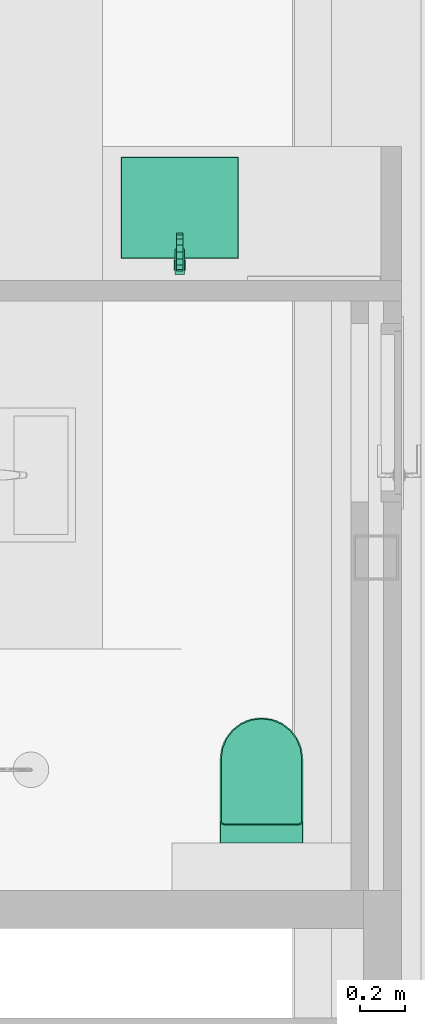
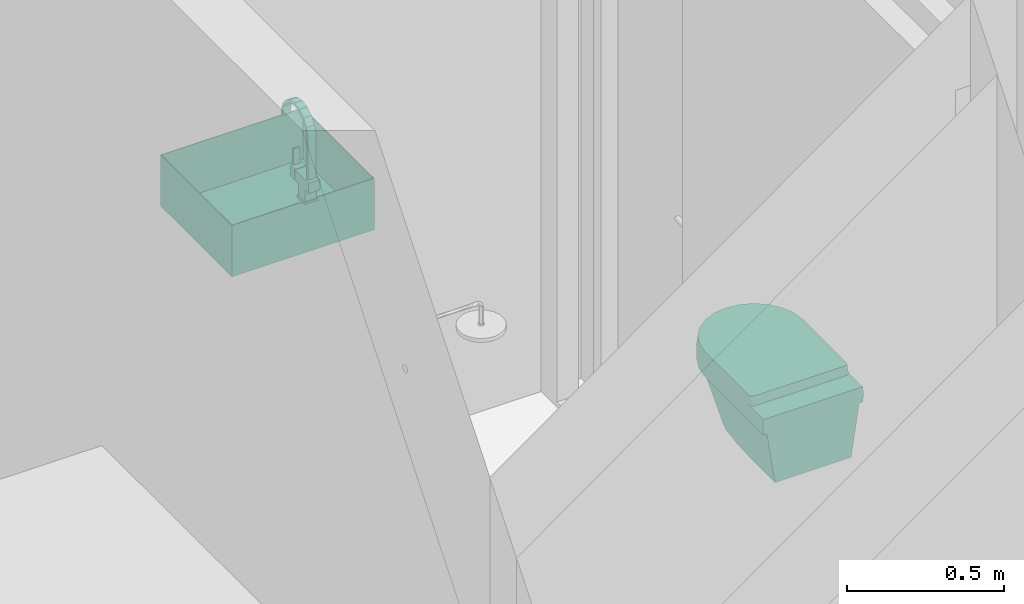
# One storey, part 56 of 125: 3 flow terminals.
"""IFC2X3 building model written with IfcOpenShell, lengths in millimetres."""

from ifc_helpers import new_model, entity, si_unit, converted_unit, direction, frame, origin, place, context, subcontext, project, spatial, faceted_brep, source, transform, mapped, material, type_object, type_shapes, element, save


model = new_model("IFC2X3")

# Units and contexts
model_context = context("Model", 3, precision=0.01, world=origin(), true_north=direction((6.123233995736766e-17, 1.0)))
plan_context = context("Plan", 3, precision=0.01, world=origin(), true_north=direction((6.123233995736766e-17, 1.0)))
body_context = subcontext(model_context, "Body", "Model", "MODEL_VIEW")
ifc_project = project(units=[si_unit("LENGTHUNIT", "METRE", prefix="MILLI"), converted_unit("PLANEANGLEUNIT", "DEGREE", entity("IfcPlaneAngleMeasure", 0.017453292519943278), si_unit("PLANEANGLEUNIT", "RADIAN"), dimensions=[0, 0, 0, 0, 0, 0, 0]), si_unit("AREAUNIT", "SQUARE_METRE")], contexts=[model_context, plan_context])

# Site, building, storey, space
site_placement = place(None, origin())
site = spatial("IfcSite", under=ifc_project, at=site_placement, Name="Default", CompositionType="ELEMENT")
building_placement = place(site_placement, origin())
building = spatial("IfcBuilding", under=site, at=building_placement, CompositionType="ELEMENT")
storey_placement = place(building_placement, frame((0.0, 0.0, 3125.0)))
storey = spatial("IfcBuildingStorey", under=building, at=storey_placement, Name="2K", CompositionType="ELEMENT", Elevation=3125.0)
space_1_placement = place(storey_placement, origin())
space_1 = spatial("IfcSpace", under=storey, at=space_1_placement, Name="2-3.4", CompositionType="ELEMENT", InteriorOrExteriorSpace="INTERNAL")

# Flow terminal
ifc_material = material(Name="<Unnamed>")
distribution_element_type_1 = type_object("IfcDistributionElementType", Name="HR_Plumbing-fixtures_Toilet_Generic_v3:Default", material=ifc_material)
shared_shape_1 = source(origin(), body_context, "Body", "Brep", [
    faceted_brep([(185.0, 375.0, -3940.0), (185.0, 100.0, -3940.0), (184.31851652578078, 94.82361909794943, -3940.0), (182.32050807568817, 90.0, -3940.0), (179.14213562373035, 85.85786437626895, -3940.0), (175.0, 82.67949192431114, -3940.0), (170.17638090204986, 80.68148347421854, -3940.0), (165.0, 80.0, -3940.0), (-165.0, 80.0, -3940.0), (-170.17638090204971, 80.68148347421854, -3940.0), (-175.0, 82.67949192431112, -3940.0), (-179.14213562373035, 85.85786437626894, -3940.0), (-182.32050807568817, 90.0, -3940.0), (-184.31851652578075, 94.82361909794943, -3940.0), (-185.0, 100.0, -3940.0), (-185.0, 375.0, -3940.0), (-178.6962778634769, 422.8815233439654, -3940.0), (-160.21469970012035, 467.49999999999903, -3940.0), (-130.81475451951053, 505.81475451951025, -3940.0), (-92.4999999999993, 535.21469970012, -3940.0), (-47.8815233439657, 553.6962778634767, -3940.0), (0.0, 560.0, -3940.0), (47.88152334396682, 553.6962778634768, -3940.0), (92.50000000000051, 535.2146997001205, -3940.0), (130.81475451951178, 505.8147545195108, -3940.0), (160.2146997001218, 467.4999999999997, -3940.0), (178.69627786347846, 422.8815233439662, -3940.0), (165.0, 85.0, -3905.0), (168.88228567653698, 85.51111260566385, -3905.0), (172.4999999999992, 87.00961894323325, -3905.0), (175.60660171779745, 89.39339828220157, -3905.0), (177.99038105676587, 92.49999999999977, -3905.0), (179.48888739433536, 96.11771432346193, -3905.0), (180.0, 100.0, -3905.0), (180.0, 375.0, -3905.0), (173.86664873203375, 421.5874281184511, -3905.0), (155.88457268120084, 465.0, -3905.0), (127.27922061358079, 502.27922061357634, -3905.0), (90.0, 530.884572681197, -3905.0), (46.58742811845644, 548.8666487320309, -3905.0), (0.0, 555.0, -3905.0), (-46.58742811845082, 548.8666487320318, -3905.0), (-90.0, 530.8845726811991, -3905.0), (-127.27922061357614, 502.2792206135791, -3905.0), (-155.88457268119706, 465.0, -3905.0), (-173.8666487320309, 421.58742811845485, -3905.0), (-180.0, 375.0, -3905.0), (-180.0, 100.0, -3905.0), (-179.4888873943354, 96.11771432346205, -3905.0), (-177.99038105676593, 92.49999999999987, -3905.0), (-175.6066017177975, 89.39339828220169, -3905.0), (-172.49999999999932, 87.00961894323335, -3905.0), (-168.88228567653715, 85.51111260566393, -3905.0), (-165.0, 85.0, -3905.0)], [[[0, 1, 2, 3, 4, 5, 6, 7, 8, 9, 10, 11, 12, 13, 14, 15, 16, 17, 18, 19, 20, 21, 22, 23, 24, 25, 26]], [[27, 28, 29, 30, 31, 32, 33, 34, 35, 36, 37, 38, 39, 40, 41, 42, 43, 44, 45, 46, 47, 48, 49, 50, 51, 52, 53]], [[13, 48, 47, 14]], [[49, 12, 11, 50]], [[48, 13, 12, 49]], [[52, 51, 10, 9]], [[53, 52, 9, 8]], [[10, 51, 50, 11]], [[7, 27, 53, 8]], [[6, 28, 27, 7]], [[29, 5, 4, 30]], [[28, 6, 5, 29]], [[32, 31, 3, 2]], [[33, 32, 2, 1]], [[3, 31, 30, 4]], [[0, 34, 33, 1]], [[34, 0, 26, 35]], [[35, 26, 25, 36]], [[38, 37, 24, 23]], [[24, 37, 36, 25]], [[39, 38, 23, 22]], [[39, 22, 21, 40]], [[20, 41, 40, 21]], [[45, 44, 17, 16]], [[43, 18, 17, 44]], [[45, 16, 15, 46]], [[19, 42, 41, 20]], [[19, 18, 43, 42]], [[47, 46, 15, 14]]]),
    faceted_brep([(158.04963619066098, 466.24999999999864, -4000.0), (176.28146329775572, 422.2344757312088, -4000.0), (182.5000000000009, 375.0, -4000.0), (182.5000000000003, 0.0, -4000.0), (-182.49999999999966, 0.0, -4000.0), (-182.49999999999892, 375.0, -4000.0), (-176.2814632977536, 422.23447573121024, -4000.0), (-158.04963619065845, 466.25, -4000.0), (-129.04698756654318, 504.0469875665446, -4000.0), (-91.2499999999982, 533.0496361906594, -4000.0), (-47.23447573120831, 551.281463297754, -4000.0), (0.0, 557.4999999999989, -4000.0), (47.23447573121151, 551.2814632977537, -4000.0), (91.25000000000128, 533.0496361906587, -4000.0), (129.04698756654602, 504.0469875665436, -4000.0), (-176.28146329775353, 422.23447573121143, -3940.0), (-182.49999999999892, 375.0, -3940.0), (-182.49999999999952, 0.0, -3940.0), (182.50000000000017, 0.0, -3940.0), (182.50000000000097, 375.0, -3940.0), (176.2814632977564, 422.23447573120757, -3940.0), (158.04963619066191, 466.24999999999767, -3940.0), (129.04698756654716, 504.04698756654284, -3940.0), (91.25000000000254, 533.0496361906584, -3940.0), (47.23447573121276, 551.2814632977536, -3940.0), (0.0, 557.4999999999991, -3940.0), (-47.23447573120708, 551.2814632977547, -3940.0), (-91.24999999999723, 533.0496361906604, -3940.0), (-129.04698756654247, 504.0469875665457, -3940.0), (-158.0496361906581, 466.25000000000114, -3940.0), (184.3739186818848, 0.0, -3985.051993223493), (185.0, 0.0, -3970.0), (184.37391868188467, 0.0, -3954.9480067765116), (-184.37391868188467, 0.0, -3954.9480067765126), (-185.0, 0.0, -3970.0), (-184.37391868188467, 0.0, -3985.051993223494), (185.0, 375.0, -3970.0), (184.37391868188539, 375.0, -3954.9480067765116), (184.37391868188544, 375.0, -3985.051993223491), (179.22193525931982, 420.2391964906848, -3962.467496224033), (146.12425609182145, 487.1250848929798, -3987.162723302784), (112.36452390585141, 521.4362980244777, -3982.347722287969), (-24.092382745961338, 557.9998161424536, -3957.652277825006), (-70.79643453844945, 545.9177137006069, -3969.999999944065), (165.88140661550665, 456.6493815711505, -3963.605381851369), (170.61476036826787, 445.67094705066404, -3980.89777177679), (146.7703673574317, 487.6208651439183, -3969.999999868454), (112.4934291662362, 521.6042920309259, -3961.29138681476), (70.79643457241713, 545.9177136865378, -3969.9999999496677), (-170.6147602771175, 445.67094700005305, -3980.8977734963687), (-146.12425609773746, 487.12508488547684, -3987.1627233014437), (70.4847752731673, 545.1653000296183, -3987.16272333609), (24.092382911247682, 557.9998161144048, -3982.3477222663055), (-146.77036734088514, 487.62086516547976, -3969.999999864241), (-165.88140640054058, 456.6493822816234, -3963.605385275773), (24.120021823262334, 558.2097557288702, -3961.2913867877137), (-24.120022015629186, 558.20975569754, -3978.7086133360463), (180.8695297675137, 411.23491834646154, -3983.9362692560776), (-112.36452329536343, 521.4362985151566, -3957.652277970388), (-112.4934298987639, 521.6042914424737, -3978.708613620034), (-70.48477528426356, 545.1653000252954, -3987.1627233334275), (-184.3739188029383, 375.0, -3954.948008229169), (-179.2219343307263, 420.239200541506, -3962.4674984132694), (-185.0, 375.0, -3970.0000029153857), (-184.3739185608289, 375.0, -3985.0519946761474), (-181.40133300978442, 410.0856400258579, -3979.2616608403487)], [[[0, 1, 2, 3, 4, 5, 6, 7, 8, 9, 10, 11, 12, 13, 14]], [[15, 16, 17, 18, 19, 20, 21, 22, 23, 24, 25, 26, 27, 28, 29]], [[4, 3, 30, 31, 32, 18, 17, 33, 34, 35]], [[32, 31, 36, 37]], [[32, 37, 19, 18]], [[30, 3, 2, 38]], [[30, 38, 36, 31]], [[37, 39, 20]], [[40, 14, 41]], [[20, 19, 37]], [[26, 42, 43]], [[44, 45, 46]], [[47, 41, 48]], [[48, 24, 23]], [[7, 49, 50]], [[47, 22, 46]], [[51, 12, 52]], [[21, 46, 22]], [[53, 49, 54]], [[55, 52, 56]], [[48, 52, 55]], [[36, 57, 39]], [[28, 58, 53]], [[11, 10, 56]], [[57, 38, 2]], [[37, 36, 39]], [[59, 58, 43]], [[7, 6, 49]], [[14, 13, 41]], [[12, 51, 13]], [[45, 57, 1]], [[14, 40, 0]], [[45, 1, 0]], [[47, 46, 41]], [[39, 57, 45]], [[24, 48, 55]], [[56, 42, 55]], [[26, 43, 27]], [[39, 45, 44]], [[58, 28, 27]], [[9, 59, 60]], [[27, 43, 58]], [[28, 53, 29]], [[61, 16, 15]], [[11, 56, 52]], [[61, 62, 63]], [[47, 48, 23]], [[41, 51, 48]], [[15, 54, 62]], [[42, 25, 55]], [[62, 61, 15]], [[64, 63, 65]], [[56, 60, 43]], [[55, 25, 24]], [[50, 53, 59]], [[60, 10, 9]], [[47, 23, 22]], [[62, 49, 65]], [[7, 50, 8]], [[49, 62, 54]], [[64, 6, 5]], [[42, 26, 25]], [[58, 59, 53]], [[49, 6, 65]], [[44, 21, 20]], [[11, 52, 12]], [[42, 56, 43]], [[46, 45, 40]], [[59, 9, 8]], [[39, 44, 20]], [[44, 46, 21]], [[54, 29, 53]], [[29, 54, 15]], [[13, 51, 41]], [[48, 51, 52]], [[0, 40, 45]], [[46, 40, 41]], [[10, 60, 56]], [[43, 60, 59]], [[8, 50, 59]], [[53, 50, 49]], [[1, 57, 2]], [[36, 38, 57]], [[62, 65, 63]], [[64, 65, 6]], [[16, 61, 33]], [[16, 33, 17]], [[33, 61, 34]], [[61, 63, 34]], [[64, 5, 4]], [[64, 35, 63]], [[35, 64, 4]], [[63, 35, 34]]]),
    faceted_brep([(85.0, 522.224318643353, -4000.0), (43.99923766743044, 539.2073904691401, -4000.0), (0.0, 545.0, -4000.0), (-43.99923766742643, 539.2073904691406, -4000.0), (-85.0, 522.2243186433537, -4000.0), (-120.20815280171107, 495.2081528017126, -4000.0), (-147.22431864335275, 460.0, -4000.0), (-164.20739046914, 418.9992376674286, -4000.0), (-170.0, 375.0, -4000.0), (-170.0, 0.0, -4000.0), (170.0, 0.0, -4000.0), (170.0, 375.0, -4000.0), (164.2073904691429, 418.99923766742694, -4000.0), (147.224318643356, 460.0, -4000.0), (120.20815280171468, 495.20815280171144, -4000.0), (140.0, 0.0, -4200.0), (-140.0, 0.0, -4200.0), (-140.0, 150.0, -4200.0), (-138.62980634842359, 195.25787346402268, -4200.0), (-137.25961308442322, 240.51573412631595, -4200.0), (-133.15405183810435, 285.6078202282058, -4200.0), (-129.04849039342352, 330.69990850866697, -4200.0), (-121.54313718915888, 361.12229181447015, -4200.0), (-106.97640292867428, 388.86507440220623, -4200.0), (-86.1945818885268, 412.3164634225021, -4200.0), (-60.40505081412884, 430.11398627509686, -4200.0), (-31.106123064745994, 441.2236471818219, -4200.0), (0.0, 445.0, -4200.0), (31.106123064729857, 441.2236471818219, -4200.0), (60.40505081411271, 430.1139862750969, -4200.0), (86.19458188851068, 412.3164634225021, -4200.0), (106.97640292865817, 388.86507440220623, -4200.0), (121.54313718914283, 361.12229181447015, -4200.0), (129.04849039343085, 330.69990850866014, -4200.0), (133.15405231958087, 285.60781494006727, -4200.0), (137.25961308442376, 240.51573412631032, -4200.0), (138.629806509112, 195.25786815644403, -4200.0), (140.0, 150.0, -4200.0), (150.60660238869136, 229.54951791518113, -4129.289317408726), (160.30330119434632, 302.2747589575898, -4064.6446587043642), (155.52145288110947, 359.3375502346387, -4070.710688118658), (143.52703751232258, 346.36235827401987, -4129.289311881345), (155.38792293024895, 359.1931016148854, -4071.362825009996), (136.07910358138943, 407.7451780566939, -4100.000018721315), (144.4628484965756, 378.65444268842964, -4105.413468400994), (88.6637225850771, 465.93257853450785, -4100.000001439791), (116.08235687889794, 439.8543237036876, -4100.000003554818), (-146.76963007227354, 381.58655237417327, -4094.5865394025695), (-136.0791098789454, 407.7451788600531, -4100.000000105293), (-143.66056550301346, 346.5068047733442, -4128.637184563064), (-156.76351819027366, 360.6811785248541, -4064.644658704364), (55.573859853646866, 484.30716171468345, -4100.000000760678), (18.928354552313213, 493.79904274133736, -4099.999999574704), (-55.573860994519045, 484.3071615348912, -4100.00000022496), (-18.928355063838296, 493.79904230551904, -4100.000000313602), (-143.52703638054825, 346.36235704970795, -4129.289317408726), (-88.66372427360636, 465.9325779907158, -4100.000000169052), (-116.08235986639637, 439.8543221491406, -4100.000000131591), (-159.3933967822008, 295.45047586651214, -4070.7106881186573), (-150.6066032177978, 229.54952413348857, -4129.2893118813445)], [[[0, 1, 2, 3, 4, 5, 6, 7, 8, 9, 10, 11, 12, 13, 14]], [[15, 16, 17, 18, 19, 20, 21, 22, 23, 24, 25, 26, 27, 28, 29, 30, 31, 32, 33, 34, 35, 36, 37]], [[10, 15, 37, 38, 39, 11]], [[36, 35, 39, 38, 37]], [[39, 40, 11]], [[35, 40, 39]], [[34, 33, 41, 42, 40, 35]], [[13, 12, 43]], [[32, 44, 33]], [[32, 31, 43]], [[44, 12, 42]], [[45, 30, 29]], [[45, 46, 30]], [[22, 47, 48]], [[30, 46, 31]], [[47, 49, 50, 8]], [[28, 51, 29]], [[46, 43, 31]], [[43, 44, 32]], [[12, 11, 40, 42]], [[51, 45, 29]], [[14, 45, 0]], [[13, 43, 46]], [[28, 27, 52]], [[14, 46, 45]], [[45, 51, 0]], [[0, 51, 1]], [[1, 51, 52]], [[52, 51, 28]], [[52, 2, 1]], [[13, 46, 14]], [[53, 26, 25]], [[2, 54, 3]], [[22, 21, 55, 49]], [[24, 56, 25]], [[48, 23, 22]], [[5, 57, 6]], [[48, 57, 23]], [[24, 23, 57]], [[47, 7, 48]], [[8, 7, 47]], [[26, 54, 27]], [[3, 54, 53]], [[56, 53, 25]], [[2, 52, 54]], [[57, 56, 24]], [[4, 53, 56]], [[22, 49, 47]], [[5, 56, 57]], [[57, 48, 6]], [[4, 56, 5]], [[53, 54, 26]], [[3, 53, 4]], [[6, 48, 7]], [[12, 44, 43]], [[44, 42, 41, 33]], [[54, 52, 27]], [[20, 19, 50, 49, 55, 21]], [[50, 58, 8]], [[19, 58, 50]], [[18, 17, 59, 58, 19]], [[9, 8, 58, 59, 17, 16]], [[9, 16, 15, 10]]]),
])
type_shapes(distribution_element_type_1, [shared_shape_1])
flow_terminal_1_placement = place(space_1_placement, frame((11462.0, 9423.0, 5485.0)))
element("IfcFlowTerminal", 1, at=flow_terminal_1_placement, inside=space_1, type_object=distribution_element_type_1, material=ifc_material, Name="HR_Plumbing-fixtures_Toilet_Generic_v3:Default", ObjectType="HR_Plumbing-fixtures_Toilet_Generic_v3:Default", context=body_context, shape_type="MappedRepresentation", body=[
    mapped(shared_shape_1, transform((0.0, 0.0, 0.0), scale=1.0)),
])

# Space
space_2_placement = place(storey_placement, origin())
space_2 = spatial("IfcSpace", under=storey, at=space_2_placement, Name="2-3.2", CompositionType="ELEMENT", InteriorOrExteriorSpace="INTERNAL")

# Flow terminals
distribution_element_type_2 = type_object("IfcDistributionElementType", Name="HR_Plumbing-fixtures_Sink_Generic_Kitchen_v1:Default", material=ifc_material)
shared_shape_2 = source(origin(), body_context, "Body", "Brep", [
    faceted_brep([(260.0, -50.0, -3825.0), (260.0, -500.0, -3825.0), (-260.0, -500.0, -3825.0), (-260.0, -50.0, -3825.0), (262.0, -48.0, -3825.0), (-262.0, -48.0, -3825.0), (-262.0, -502.0, -3825.0), (262.0, -502.0, -3825.0), (262.0, -48.0, -4025.0), (262.0, -502.0, -4025.0), (-262.0, -502.0, -4025.0), (-262.0, -48.0, -4025.0), (260.0, -50.0, -4023.0), (260.0, -500.0, -4023.0), (-260.0, -500.0, -4023.0), (-260.0, -50.0, -4023.0)], [[[0, 1, 2, 3], [4, 5, 6, 7]], [[8, 9, 10, 11]], [[1, 0, 12, 13]], [[2, 1, 13, 14]], [[3, 2, 14, 15]], [[0, 3, 15, 12]], [[5, 4, 8, 11]], [[6, 5, 11, 10]], [[7, 6, 10, 9]], [[4, 7, 9, 8]], [[13, 12, 15, 14]]], outer=[[False, True], [True], [True], [True], [True], [True], [True], [True], [True], [True], [True]]),
])
type_shapes(distribution_element_type_2, [shared_shape_2])
flow_terminal_2_placement = place(space_2_placement, frame((11096.0, 12540.0, 4695.0)))
element("IfcFlowTerminal", 2, at=flow_terminal_2_placement, inside=space_2, type_object=distribution_element_type_2, material=ifc_material, Name="HR_Plumbing-fixtures_Sink_Generic_Kitchen_v1:Default", ObjectType="HR_Plumbing-fixtures_Sink_Generic_Kitchen_v1:Default", context=body_context, shape_type="MappedRepresentation", body=[
    mapped(shared_shape_2, transform((0.0, 0.0, 0.0), scale=1.0)),
])
distribution_element_type_3 = type_object("IfcDistributionElementType", Name="HR_Plumbing-fixtures_Faucet_Generic_v1:Default", material=ifc_material)
shared_shape_3 = source(origin(), body_context, "Body", "Brep", [
    faceted_brep([(-21.0, 45.0, 93.0), (21.0, 45.0, 93.0), (21.0, 71.0, 93.0), (11.500000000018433, 71.0, 93.0), (11.50000000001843, 68.0, 93.0), (-11.49999999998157, 68.0, 93.0), (-11.499999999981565, 71.0, 93.0), (-21.0, 71.0, 93.0), (-21.0, 45.0, 52.0), (-21.0, 71.0, 52.0), (-11.499999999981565, 71.0, 52.0), (-11.49999999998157, 68.0, 52.0), (11.50000000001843, 68.0, 52.0), (11.500000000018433, 71.0, 52.0), (21.0, 71.0, 52.0), (21.0, 45.0, 52.0), (-11.499999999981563, 74.0, 155.0), (-11.499999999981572, 68.0, 155.0), (11.500000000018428, 68.0, 155.0), (11.500000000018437, 74.0, 155.0), (-11.499999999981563, 74.0, 47.0), (11.500000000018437, 74.0, 47.0), (11.500000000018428, 68.0, 47.0), (-11.499999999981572, 68.0, 47.0)], [[[0, 1, 2, 3, 4, 5, 6, 7]], [[8, 9, 10, 11, 12, 13, 14, 15]], [[1, 0, 8, 15]], [[2, 1, 15, 14]], [[2, 14, 13, 3]], [[0, 7, 9, 8]], [[16, 17, 18, 19]], [[20, 21, 22, 23]], [[17, 16, 20, 23, 11, 10, 6, 5]], [[18, 17, 5, 4]], [[19, 18, 4, 3, 13, 12, 22, 21]], [[16, 19, 21, 20]], [[23, 22, 12, 11]], [[9, 7, 6, 10]]]),
    faceted_brep([(15.0, -28.2999999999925, 93.0), (-15.0, -28.299999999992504, 93.0), (-15.0, -18.299999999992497, 93.0), (15.0, -18.299999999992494, 93.0), (15.0, -28.299999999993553, 262.91444034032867), (-15.0, -28.29999999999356, 262.9144403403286), (-15.0, -18.29999999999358, 262.49427421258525), (15.0, -18.299999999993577, 262.49427421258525), (15.0, -24.100059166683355, 278.21407775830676), (15.0, -19.900118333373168, 293.51371517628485), (-15.0, -19.900118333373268, 293.5137151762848), (-15.0, -24.100059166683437, 278.2140777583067), (-15.0, -0.9291565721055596, 318.9494428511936), (-15.0, -10.414637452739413, 306.2315790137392), (15.0, -10.414637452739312, 306.23157901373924), (15.0, -0.9291565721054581, 318.9494428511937), (15.0, 142.33160759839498, 262.51576689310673), (-15.0, 142.33160759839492, 262.51576689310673), (-15.0, 138.20320612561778, 277.83486312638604), (-15.0, 134.07480465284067, 293.15395935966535), (15.0, 134.07480465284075, 293.15395935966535), (15.0, 138.20320612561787, 277.83486312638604), (-15.0, 26.005040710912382, 335.7250992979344), (-15.0, 12.537942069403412, 327.337271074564), (15.0, 12.537942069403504, 327.337271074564), (15.0, 26.005040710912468, 335.7250992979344), (-15.0, 57.19996222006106, 341.5346177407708), (-15.0, 41.60250146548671, 338.6298585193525), (15.0, 41.60250146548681, 338.62985851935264), (15.0, 57.19996222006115, 341.5346177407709), (-15.0, 88.36739590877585, 335.5793923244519), (-15.0, 72.78367906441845, 338.55700503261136), (15.0, 72.78367906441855, 338.55700503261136), (15.0, 88.36739590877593, 335.5793923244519), (-15.0, 124.64885649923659, 305.9160089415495), (-15.0, 115.22290834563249, 318.67805852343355), (15.0, 115.22290834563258, 318.67805852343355), (15.0, 124.64885649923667, 305.9160089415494), (-15.0, 101.79515212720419, 327.1287254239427), (15.0, 101.79515212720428, 327.1287254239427), (-15.0, 142.3316075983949, 249.0), (-15.0, 132.33160759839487, 249.0), (-15.0, 132.3316075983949, 262.11973222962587), (-15.0, 128.64003790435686, 275.58767371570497), (-15.0, 124.94846821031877, 289.05561520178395), (-15.0, 116.61798076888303, 300.2634746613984), (-15.0, 108.28749332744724, 311.4713341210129), (-15.0, 96.45555148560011, 318.88876541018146), (-15.0, 84.623609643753, 326.30619669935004), (-15.0, 70.90577314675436, 328.9204071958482), (-15.0, 57.187936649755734, 331.53461769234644), (-15.0, 43.457269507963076, 328.98865726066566), (-15.0, 29.726602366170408, 326.4426968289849), (-15.0, 17.85792051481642, 319.08419658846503), (-15.0, 5.989238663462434, 311.72569634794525), (-15.0, -2.3968815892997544, 300.55940234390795), (-15.0, -10.783001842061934, 289.3931083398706), (-15.0, -14.541500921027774, 275.9436912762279), (15.0, -10.783001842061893, 289.3931083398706), (15.0, -14.541500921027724, 275.9436912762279), (15.0, 5.989238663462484, 311.7256963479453), (15.0, -2.396881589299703, 300.55940234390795), (15.0, 116.61798076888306, 300.2634746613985), (15.0, 108.28749332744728, 311.47133412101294), (15.0, 124.94846821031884, 289.05561520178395), (15.0, 29.726602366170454, 326.4426968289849), (15.0, 17.857920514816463, 319.08419658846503), (15.0, 57.187936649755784, 331.53461769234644), (15.0, 43.45726950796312, 328.98865726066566), (15.0, 84.62360964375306, 326.30619669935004), (15.0, 70.90577314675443, 328.9204071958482), (15.0, 127.94606568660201, 278.11949025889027), (15.0, 132.33160759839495, 262.11973222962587), (15.0, 96.45555148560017, 318.88876541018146), (15.0, 132.33160759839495, 249.0), (15.0, 142.33160759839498, 249.0)], [[[0, 1, 2, 3]], [[1, 0, 4, 5]], [[3, 2, 6, 7]], [[4, 8, 9, 10, 11, 5]], [[12, 13, 10, 9, 14, 15]], [[16, 17, 18, 19, 20, 21]], [[22, 23, 12, 15, 24, 25]], [[26, 27, 22, 25, 28, 29]], [[30, 31, 26, 29, 32, 33]], [[34, 35, 36, 37, 20, 19]], [[35, 38, 30, 33, 39, 36]], [[17, 40, 41, 42, 43, 44, 45, 46, 47, 48, 49, 50, 51, 52, 53, 54, 55, 56, 57, 6, 2, 1, 5, 11, 10, 13, 12, 23, 22, 27, 26, 31, 30, 38, 35, 34, 19, 18]], [[6, 57, 56, 58, 59, 7]], [[60, 61, 58, 56, 55, 54]], [[62, 63, 46, 45, 44, 64]], [[65, 66, 60, 54, 53, 52]], [[65, 52, 51, 50, 67, 68]], [[69, 70, 67, 50, 49, 48]], [[71, 64, 44, 43, 42, 72]], [[47, 46, 63, 73, 69, 48]], [[72, 74, 75, 16, 21, 20, 37, 36, 39, 33, 32, 29, 28, 25, 24, 15, 14, 9, 8, 4, 0, 3, 7, 59, 58, 61, 60, 66, 65, 68, 67, 70, 69, 73, 63, 62, 64, 71]], [[41, 40, 75, 74]], [[17, 16, 75, 40]], [[72, 42, 41, 74]]]),
    faceted_brep([(-21.0, -43.0, 93.0), (21.0, -43.0, 93.0), (21.0, 43.0, 93.0), (-21.0, 43.0, 93.0), (-21.0, -43.0, 52.0), (-21.0, 43.0, 52.0), (21.0, 43.0, 52.0), (21.0, -43.0, 52.0)], [[[0, 1, 2, 3]], [[4, 5, 6, 7]], [[1, 0, 4, 7]], [[2, 1, 7, 6]], [[3, 2, 6, 5]], [[0, 3, 5, 4]]]),
    faceted_brep([(21.0, -21.0, 52.0), (21.0, 21.0, 52.0), (-21.0, 21.0, 52.0), (-21.0, -21.0, 52.0), (21.0, -21.0, 7.0), (-21.0, -21.0, 7.0), (-21.0, 21.0, 7.0), (21.0, 21.0, 7.0)], [[[0, 1, 2, 3]], [[4, 5, 6, 7]], [[1, 0, 4, 7]], [[2, 1, 7, 6]], [[3, 2, 6, 5]], [[0, 3, 5, 4]]]),
    faceted_brep([(-25.0, 25.0, 7.0), (-25.0, -25.0, 7.0), (25.0, -25.0, 7.0), (25.0, 25.0, 7.0), (-25.0, 25.0, 0.0), (25.0, 25.0, 0.0), (25.0, -25.0, 0.0), (-25.0, -25.0, 0.0)], [[[0, 1, 2, 3]], [[4, 5, 6, 7]], [[1, 0, 4, 7]], [[2, 1, 7, 6]], [[3, 2, 6, 5]], [[0, 3, 5, 4]]]),
])
type_shapes(distribution_element_type_3, [shared_shape_3])
flow_terminal_3_placement = place(space_2_placement, frame((11096.0, 12010.0, 900.0)))
element("IfcFlowTerminal", 3, at=flow_terminal_3_placement, inside=space_2, type_object=distribution_element_type_3, material=ifc_material, Name="HR_Plumbing-fixtures_Faucet_Generic_v1:Default", ObjectType="HR_Plumbing-fixtures_Faucet_Generic_v1:Default", context=body_context, shape_type="MappedRepresentation", body=[
    mapped(shared_shape_3, transform((0.0, 0.0, 0.0), scale=1.0)),
])

save(model, "model.ifc")
